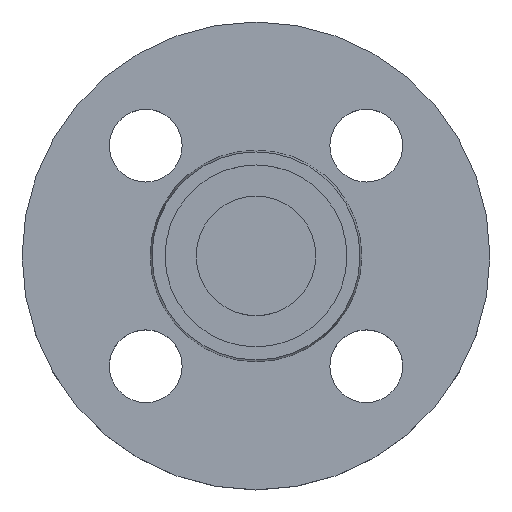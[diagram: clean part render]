
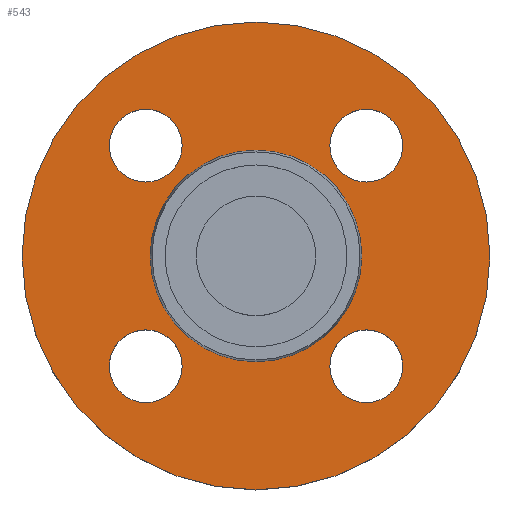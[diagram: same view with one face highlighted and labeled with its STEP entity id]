
A CAD part, top view. The second image highlights one B-rep face of the part: STEP entity #543.
In plain terms, the highlighted planar face has unit normal (0, 0, 1).
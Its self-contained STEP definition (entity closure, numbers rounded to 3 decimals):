
#2 = CARTESIAN_POINT ( 'NONE',  ( 21.213, 21.213, -2. ) ) ;
#3 = CARTESIAN_POINT ( 'NONE',  ( 45., 0., -2. ) ) ;
#14 = CARTESIAN_POINT ( 'NONE',  ( -14.213, 21.213, -2. ) ) ;
#33 = EDGE_CURVE ( 'NONE', #518, #635, #766, .T. ) ;
#38 = DIRECTION ( 'NONE',  ( 0., 0., -1. ) ) ;
#40 = DIRECTION ( 'NONE',  ( 1., 0., 0. ) ) ;
#44 = CARTESIAN_POINT ( 'NONE',  ( 20.353, 0., -2. ) ) ;
#51 = CARTESIAN_POINT ( 'NONE',  ( 28.213, -21.213, -2. ) ) ;
#55 = CARTESIAN_POINT ( 'NONE',  ( 28.213, 21.213, -2. ) ) ;
#61 = CARTESIAN_POINT ( 'NONE',  ( 20.353, 0., -2. ) ) ;
#62 = DIRECTION ( 'NONE',  ( -1., 0., 0. ) ) ;
#64 = CARTESIAN_POINT ( 'NONE',  ( -28.213, -21.213, -2. ) ) ;
#65 = EDGE_CURVE ( 'NONE', #390, #630, #434, .T. ) ;
#69 = DIRECTION ( 'NONE',  ( 1., 0., 0. ) ) ;
#77 = EDGE_CURVE ( 'NONE', #459, #576, #276, .T. ) ;
#79 = CARTESIAN_POINT ( 'NONE',  ( 14.213, -21.213, -2. ) ) ;
#80 = CARTESIAN_POINT ( 'NONE',  ( 14.213, 21.213, -2. ) ) ;
#92 = CIRCLE ( 'NONE', #728, 7. ) ;
#96 = AXIS2_PLACEMENT_3D ( 'NONE', #789, #790, #791 ) ;
#113 = DIRECTION ( 'NONE',  ( 0., 0., -1. ) ) ;
#124 = DIRECTION ( 'NONE',  ( 0., 0., -1. ) ) ;
#125 = CARTESIAN_POINT ( 'NONE',  ( -28.213, 21.213, -2. ) ) ;
#127 = CARTESIAN_POINT ( 'NONE',  ( 0., 0., -2. ) ) ;
#128 = CIRCLE ( 'NONE', #300, 7. ) ;
#132 = DIRECTION ( 'NONE',  ( -1., 0., 0. ) ) ;
#137 = AXIS2_PLACEMENT_3D ( 'NONE', #774, #775, #69 ) ;
#141 = CARTESIAN_POINT ( 'NONE',  ( -21.213, -21.213, -2. ) ) ;
#153 = EDGE_CURVE ( 'NONE', #635, #518, #233, .T. ) ;
#155 = DIRECTION ( 'NONE',  ( 0., 0., 1. ) ) ;
#158 = AXIS2_PLACEMENT_3D ( 'NONE', #310, #311, #317 ) ;
#172 = CIRCLE ( 'NONE', #546, 20.353 ) ;
#175 = AXIS2_PLACEMENT_3D ( 'NONE', #671, #672, #673 ) ;
#176 = CIRCLE ( 'NONE', #158, 45. ) ;
#188 = AXIS2_PLACEMENT_3D ( 'NONE', #785, #786, #787 ) ;
#192 = AXIS2_PLACEMENT_3D ( 'NONE', #263, #265, #132 ) ;
#194 = CIRCLE ( 'NONE', #188, 7. ) ;
#197 = CARTESIAN_POINT ( 'NONE',  ( -20.353, 0., -2. ) ) ;
#200 = EDGE_CURVE ( 'NONE', #576, #459, #607, .T. ) ;
#212 = EDGE_CURVE ( 'NONE', #545, #623, #194, .T. ) ;
#224 = EDGE_CURVE ( 'NONE', #623, #545, #438, .T. ) ;
#231 = AXIS2_PLACEMENT_3D ( 'NONE', #689, #690, #691 ) ;
#233 = CIRCLE ( 'NONE', #620, 7. ) ;
#263 = CARTESIAN_POINT ( 'NONE',  ( 0., 0., -2. ) ) ;
#265 = DIRECTION ( 'NONE',  ( 0., 0., -1. ) ) ;
#267 = PLANE ( 'NONE',  #316 ) ;
#270 = EDGE_CURVE ( 'NONE', #582, #634, #709, .T. ) ;
#275 = AXIS2_PLACEMENT_3D ( 'NONE', #680, #682, #683 ) ;
#276 = CIRCLE ( 'NONE', #231, 7. ) ;
#300 = AXIS2_PLACEMENT_3D ( 'NONE', #2, #113, #40 ) ;
#310 = CARTESIAN_POINT ( 'NONE',  ( 0., 0., -2. ) ) ;
#311 = DIRECTION ( 'NONE',  ( 0., 0., -1. ) ) ;
#316 = AXIS2_PLACEMENT_3D ( 'NONE', #61, #155, #368 ) ;
#317 = DIRECTION ( 'NONE',  ( -1., 0., 0. ) ) ;
#318 = CARTESIAN_POINT ( 'NONE',  ( 21.213, 21.213, -2. ) ) ;
#319 = DIRECTION ( 'NONE',  ( 0., 0., -1. ) ) ;
#324 = DIRECTION ( 'NONE',  ( 1., 0., 0. ) ) ;
#329 = CARTESIAN_POINT ( 'NONE',  ( -45., 0., -2. ) ) ;
#350 = FACE_BOUND ( 'NONE', #639, .T. ) ;
#354 = CARTESIAN_POINT ( 'NONE',  ( -14.213, -21.213, -2. ) ) ;
#357 = FACE_BOUND ( 'NONE', #464, .T. ) ;
#362 = FACE_BOUND ( 'NONE', #416, .T. ) ;
#364 = FACE_BOUND ( 'NONE', #605, .T. ) ;
#365 = FACE_OUTER_BOUND ( 'NONE', #585, .T. ) ;
#367 = FACE_BOUND ( 'NONE', #604, .T. ) ;
#368 = DIRECTION ( 'NONE',  ( 1., 0., 0. ) ) ;
#379 = EDGE_CURVE ( 'NONE', #630, #390, #176, .T. ) ;
#385 = EDGE_CURVE ( 'NONE', #463, #568, #92, .T. ) ;
#390 = VERTEX_POINT ( 'NONE', #329 ) ;
#416 = EDGE_LOOP ( 'NONE', ( #490, #492 ) ) ;
#434 = CIRCLE ( 'NONE', #275, 45. ) ;
#438 = CIRCLE ( 'NONE', #96, 7. ) ;
#459 = VERTEX_POINT ( 'NONE', #79 ) ;
#463 = VERTEX_POINT ( 'NONE', #80 ) ;
#464 = EDGE_LOOP ( 'NONE', ( #499, #500 ) ) ;
#487 = ORIENTED_EDGE ( 'NONE', *, *, #200, .T. ) ;
#489 = ORIENTED_EDGE ( 'NONE', *, *, #77, .T. ) ;
#490 = ORIENTED_EDGE ( 'NONE', *, *, #153, .T. ) ;
#492 = ORIENTED_EDGE ( 'NONE', *, *, #33, .T. ) ;
#493 = ORIENTED_EDGE ( 'NONE', *, *, #224, .T. ) ;
#494 = ORIENTED_EDGE ( 'NONE', *, *, #212, .T. ) ;
#497 = ORIENTED_EDGE ( 'NONE', *, *, #513, .T. ) ;
#498 = ORIENTED_EDGE ( 'NONE', *, *, #385, .T. ) ;
#499 = ORIENTED_EDGE ( 'NONE', *, *, #562, .T. ) ;
#500 = ORIENTED_EDGE ( 'NONE', *, *, #270, .T. ) ;
#501 = ORIENTED_EDGE ( 'NONE', *, *, #379, .F. ) ;
#503 = ORIENTED_EDGE ( 'NONE', *, *, #65, .F. ) ;
#513 = EDGE_CURVE ( 'NONE', #568, #463, #128, .T. ) ;
#518 = VERTEX_POINT ( 'NONE', #64 ) ;
#543 = ADVANCED_FACE ( 'NONE', ( #350, #362, #367, #364, #357, #365 ), #267, .T. ) ;
#545 = VERTEX_POINT ( 'NONE', #125 ) ;
#546 = AXIS2_PLACEMENT_3D ( 'NONE', #127, #38, #62 ) ;
#562 = EDGE_CURVE ( 'NONE', #634, #582, #172, .T. ) ;
#568 = VERTEX_POINT ( 'NONE', #55 ) ;
#576 = VERTEX_POINT ( 'NONE', #51 ) ;
#582 = VERTEX_POINT ( 'NONE', #44 ) ;
#585 = EDGE_LOOP ( 'NONE', ( #501, #503 ) ) ;
#604 = EDGE_LOOP ( 'NONE', ( #493, #494 ) ) ;
#605 = EDGE_LOOP ( 'NONE', ( #497, #498 ) ) ;
#607 = CIRCLE ( 'NONE', #137, 7. ) ;
#620 = AXIS2_PLACEMENT_3D ( 'NONE', #141, #124, #736 ) ;
#623 = VERTEX_POINT ( 'NONE', #14 ) ;
#630 = VERTEX_POINT ( 'NONE', #3 ) ;
#634 = VERTEX_POINT ( 'NONE', #197 ) ;
#635 = VERTEX_POINT ( 'NONE', #354 ) ;
#639 = EDGE_LOOP ( 'NONE', ( #487, #489 ) ) ;
#671 = CARTESIAN_POINT ( 'NONE',  ( -21.213, -21.213, -2. ) ) ;
#672 = DIRECTION ( 'NONE',  ( 0., 0., -1. ) ) ;
#673 = DIRECTION ( 'NONE',  ( 1., 0., 0. ) ) ;
#680 = CARTESIAN_POINT ( 'NONE',  ( 0., 0., -2. ) ) ;
#682 = DIRECTION ( 'NONE',  ( 0., 0., -1. ) ) ;
#683 = DIRECTION ( 'NONE',  ( -1., 0., 0. ) ) ;
#689 = CARTESIAN_POINT ( 'NONE',  ( 21.213, -21.213, -2. ) ) ;
#690 = DIRECTION ( 'NONE',  ( 0., 0., -1. ) ) ;
#691 = DIRECTION ( 'NONE',  ( 1., 0., 0. ) ) ;
#709 = CIRCLE ( 'NONE', #192, 20.353 ) ;
#728 = AXIS2_PLACEMENT_3D ( 'NONE', #318, #319, #324 ) ;
#736 = DIRECTION ( 'NONE',  ( 1., 0., 0. ) ) ;
#766 = CIRCLE ( 'NONE', #175, 7. ) ;
#774 = CARTESIAN_POINT ( 'NONE',  ( 21.213, -21.213, -2. ) ) ;
#775 = DIRECTION ( 'NONE',  ( 0., 0., -1. ) ) ;
#785 = CARTESIAN_POINT ( 'NONE',  ( -21.213, 21.213, -2. ) ) ;
#786 = DIRECTION ( 'NONE',  ( 0., 0., -1. ) ) ;
#787 = DIRECTION ( 'NONE',  ( 1., 0., 0. ) ) ;
#789 = CARTESIAN_POINT ( 'NONE',  ( -21.213, 21.213, -2. ) ) ;
#790 = DIRECTION ( 'NONE',  ( 0., 0., -1. ) ) ;
#791 = DIRECTION ( 'NONE',  ( 1., 0., 0. ) ) ;
